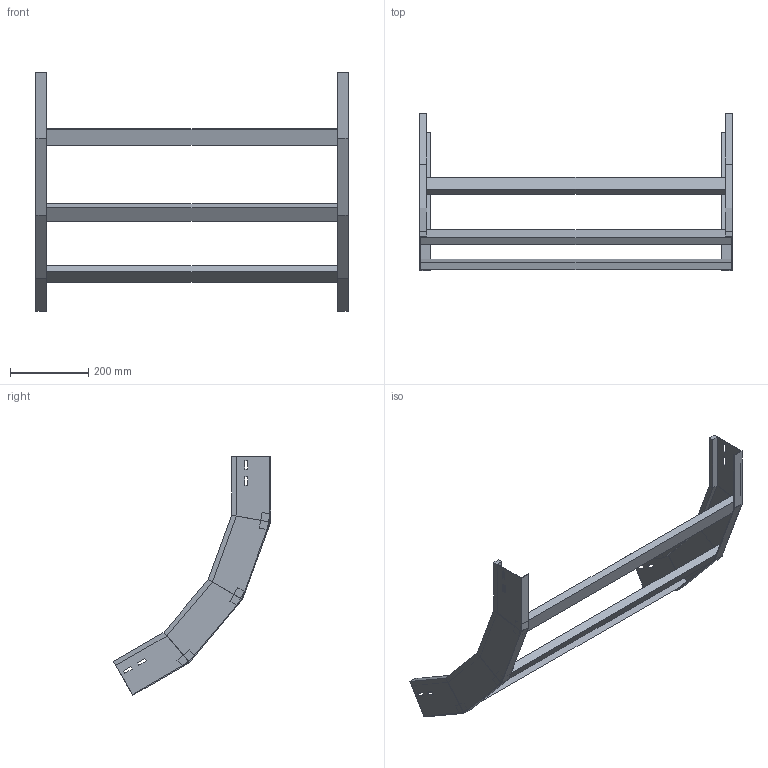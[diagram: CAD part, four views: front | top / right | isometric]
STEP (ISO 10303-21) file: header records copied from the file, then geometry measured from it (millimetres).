
FILE_DESCRIPTION (( 'STEP AP214' ), '1' );
FILE_NAME ('A2X40B5D800XX.step', '2025-03-20T10:12:23', ( '' ), ( '' ), 'SwSTEP 2.0', 'SolidWorks 2023', '' );
FILE_SCHEMA (( 'AUTOMOTIVE_DESIGN' ));
Length unit declared in the file: millimetre
Products named in the file (3): TRAVERSINO_800; LONGH.SALITA_60°_H100_R500; A2X40B5D800XX
Assembly tree (5 placements, depth 2):
  A2X40B5D800XX
    LONGH.SALITA_60°_H100_R500  x2
    TRAVERSINO_800  x3
Bounding box: 800 x 402.87 x 611.18 mm (x, y, z)
Volume: 2541550.8 mm3; surface area: 698991.1 mm2
Topology: 5 solids, 5 shells, 118 faces, 276 edges, 168 vertices
Faces by surface type: plane 118
Entity records: 1672 total; most frequent: CARTESIAN_POINT 276, ORIENTED_EDGE 264, DIRECTION 260, EDGE_CURVE 132, VECTOR 132, LINE 132, VERTEX_POINT 80, AXIS2_PLACEMENT_3D 64
